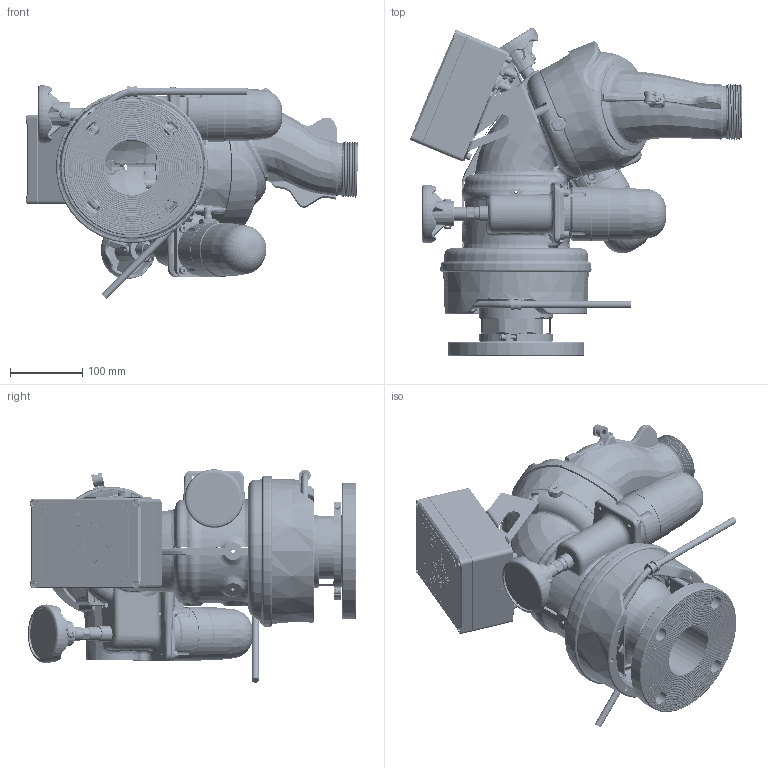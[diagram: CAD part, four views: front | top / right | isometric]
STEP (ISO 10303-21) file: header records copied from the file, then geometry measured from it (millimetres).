
FILE_DESCRIPTION (( 'STEP AP203' ), '1' );
FILE_NAME ('Y4-E15A_Horizontal.STEP', '2017-03-27T17:29:40', ( '' ), ( '' ), 'SwSTEP 2.0', 'SolidWorks 2016', '' );
FILE_SCHEMA (( 'CONFIG_CONTROL_DESIGN' ));
Products named in the file (1): Y4-E15A_Horizontal
Bounding box: 459.8 x 454.7 x 295.8 mm (x, y, z)
Surface area: 989259.9 mm2 (no closed solid volume)
Topology: 0 solids, 266 shells, 3036 faces, 12709 edges, 9702 vertices
Faces by surface type: plane 905, cylinder 699, bspline 602, torus 454, cone 347, sphere 29
Entity records: 202791 total; most frequent: CARTESIAN_POINT 108912, ORIENTED_EDGE 18405, DIRECTION 16902, EDGE_CURVE 12669, VERTEX_POINT 9691, AXIS2_PLACEMENT_3D 5844, LINE 5214, VECTOR 5214
